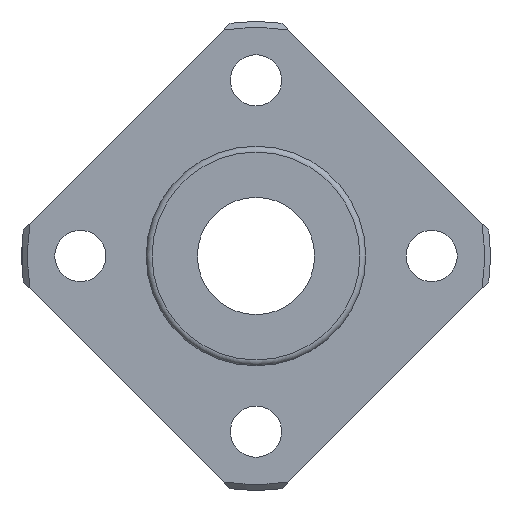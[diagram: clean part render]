
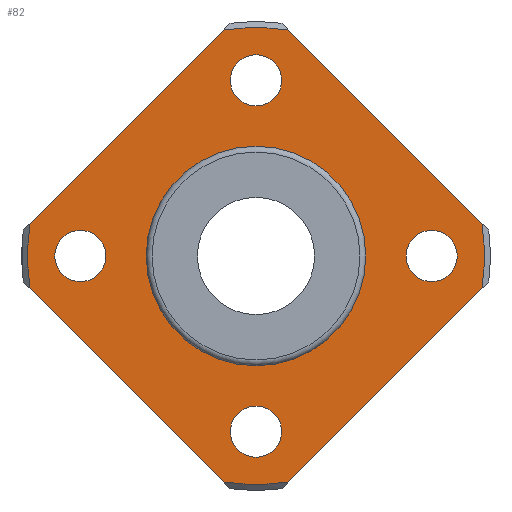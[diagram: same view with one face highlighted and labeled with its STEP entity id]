
A CAD part, left-side view. The second image highlights one B-rep face of the part: STEP entity #82.
In plain terms, the highlighted planar face has unit normal (-1, 0, 0).
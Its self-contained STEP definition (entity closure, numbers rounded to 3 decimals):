
#82=ADVANCED_FACE('',(#134,#135,#136,#137,#138,#139),#140,.T.);
#134=FACE_BOUND('',#249,.T.);
#135=FACE_BOUND('',#250,.T.);
#136=FACE_BOUND('',#251,.T.);
#137=FACE_BOUND('',#252,.T.);
#138=FACE_BOUND('',#253,.T.);
#139=FACE_OUTER_BOUND('',#254,.T.);
#140=PLANE('',#255);
#249=EDGE_LOOP('',(#402));
#250=EDGE_LOOP('',(#403));
#251=EDGE_LOOP('',(#404));
#252=EDGE_LOOP('',(#405));
#253=EDGE_LOOP('',(#406));
#254=EDGE_LOOP('',(#407,#408,#409,#410,#411,#412,#413,#414));
#255=AXIS2_PLACEMENT_3D('',#415,#416,#417);
#402=ORIENTED_EDGE('',*,*,#654,.F.);
#403=ORIENTED_EDGE('',*,*,#650,.T.);
#404=ORIENTED_EDGE('',*,*,#655,.T.);
#405=ORIENTED_EDGE('',*,*,#656,.T.);
#406=ORIENTED_EDGE('',*,*,#657,.T.);
#407=ORIENTED_EDGE('',*,*,#631,.T.);
#408=ORIENTED_EDGE('',*,*,#622,.T.);
#409=ORIENTED_EDGE('',*,*,#658,.T.);
#410=ORIENTED_EDGE('',*,*,#659,.T.);
#411=ORIENTED_EDGE('',*,*,#660,.T.);
#412=ORIENTED_EDGE('',*,*,#633,.T.);
#413=ORIENTED_EDGE('',*,*,#661,.T.);
#414=ORIENTED_EDGE('',*,*,#641,.T.);
#415=CARTESIAN_POINT('',(-5.0,0.,11.475));
#416=DIRECTION('',(-1.0,0.,0.));
#417=DIRECTION('',(0.,-1.0,0.));
#622=EDGE_CURVE('',#698,#699,#700,.T.);
#631=EDGE_CURVE('',#716,#698,#717,.T.);
#633=EDGE_CURVE('',#719,#720,#721,.T.);
#641=EDGE_CURVE('',#735,#716,#736,.T.);
#650=EDGE_CURVE('',#752,#752,#753,.T.);
#654=EDGE_CURVE('',#760,#760,#761,.T.);
#655=EDGE_CURVE('',#762,#762,#763,.T.);
#656=EDGE_CURVE('',#764,#764,#765,.T.);
#657=EDGE_CURVE('',#766,#766,#767,.T.);
#658=EDGE_CURVE('',#699,#768,#769,.T.);
#659=EDGE_CURVE('',#768,#770,#771,.T.);
#660=EDGE_CURVE('',#770,#719,#772,.T.);
#661=EDGE_CURVE('',#720,#735,#773,.T.);
#698=VERTEX_POINT('',#834);
#699=VERTEX_POINT('',#835);
#700=LINE('',#836,#837);
#716=VERTEX_POINT('',#868);
#717=CIRCLE('',#869,15.6);
#719=VERTEX_POINT('',#874);
#720=VERTEX_POINT('',#875);
#721=LINE('',#876,#877);
#735=VERTEX_POINT('',#906);
#736=LINE('',#907,#908);
#752=VERTEX_POINT('',#936);
#753=CIRCLE('',#937,1.75);
#760=VERTEX_POINT('',#944);
#761=CIRCLE('',#945,7.35);
#762=VERTEX_POINT('',#946);
#763=CIRCLE('',#947,1.75);
#764=VERTEX_POINT('',#948);
#765=CIRCLE('',#949,1.75);
#766=VERTEX_POINT('',#950);
#767=CIRCLE('',#951,1.75);
#768=VERTEX_POINT('',#952);
#769=CIRCLE('',#953,15.6);
#770=VERTEX_POINT('',#954);
#771=LINE('',#955,#956);
#772=CIRCLE('',#957,15.6);
#773=CIRCLE('',#958,15.6);
#834=CARTESIAN_POINT('',(-5.0,-15.438,2.239));
#835=CARTESIAN_POINT('',(-5.0,-2.239,15.438));
#836=CARTESIAN_POINT('',(-5.0,-3.101,14.576));
#837=VECTOR('',#1034,1.0);
#868=CARTESIAN_POINT('',(-5.0,-15.438,-2.239));
#869=AXIS2_PLACEMENT_3D('',#1041,#1042,#1043);
#874=CARTESIAN_POINT('',(-5.0,15.438,-2.239));
#875=CARTESIAN_POINT('',(-5.0,2.239,-15.438));
#876=CARTESIAN_POINT('',(-5.0,14.576,-3.101));
#877=VECTOR('',#1044,1.0);
#906=CARTESIAN_POINT('',(-5.0,-2.239,-15.438));
#907=CARTESIAN_POINT('',(-5.0,-14.576,-3.101));
#908=VECTOR('',#1048,1.0);
#936=CARTESIAN_POINT('',(-5.0,-1.75,12.0));
#937=AXIS2_PLACEMENT_3D('',#1058,#1059,#1060);
#944=CARTESIAN_POINT('',(-5.0,0.,7.35));
#945=AXIS2_PLACEMENT_3D('',#1070,#1071,#1072);
#946=CARTESIAN_POINT('',(-5.0,-1.75,-12.0));
#947=AXIS2_PLACEMENT_3D('',#1073,#1074,#1075);
#948=CARTESIAN_POINT('',(-5.0,10.25,0.));
#949=AXIS2_PLACEMENT_3D('',#1076,#1077,#1078);
#950=CARTESIAN_POINT('',(-5.0,-13.75,0.));
#951=AXIS2_PLACEMENT_3D('',#1079,#1080,#1081);
#952=CARTESIAN_POINT('',(-5.0,2.239,15.438));
#953=AXIS2_PLACEMENT_3D('',#1082,#1083,#1084);
#954=CARTESIAN_POINT('',(-5.0,15.438,2.239));
#955=CARTESIAN_POINT('',(-5.0,3.101,14.576));
#956=VECTOR('',#1085,1.0);
#957=AXIS2_PLACEMENT_3D('',#1086,#1087,#1088);
#958=AXIS2_PLACEMENT_3D('',#1089,#1090,#1091);
#1034=DIRECTION('',(0.,0.707,0.707));
#1041=CARTESIAN_POINT('',(-5.0,0.,0.));
#1042=DIRECTION('',(-1.0,0.,0.));
#1043=DIRECTION('',(0.,0.0,1.0));
#1044=DIRECTION('',(0.,-0.707,-0.707));
#1048=DIRECTION('',(0.,-0.707,0.707));
#1058=CARTESIAN_POINT('',(-5.0,0.,12.0));
#1059=DIRECTION('',(1.0,0.,0.));
#1060=DIRECTION('',(0.,1.0,0.));
#1070=CARTESIAN_POINT('',(-5.0,0.,0.));
#1071=DIRECTION('',(-1.0,0.,0.));
#1072=DIRECTION('',(0.,0.0,1.0));
#1073=CARTESIAN_POINT('',(-5.0,0.,-12.0));
#1074=DIRECTION('',(1.0,0.,0.));
#1075=DIRECTION('',(0.,1.0,0.));
#1076=CARTESIAN_POINT('',(-5.0,12.0,0.));
#1077=DIRECTION('',(1.0,0.,0.));
#1078=DIRECTION('',(0.,1.0,0.));
#1079=CARTESIAN_POINT('',(-5.0,-12.0,0.));
#1080=DIRECTION('',(1.0,0.,0.));
#1081=DIRECTION('',(0.,1.0,0.));
#1082=CARTESIAN_POINT('',(-5.0,0.,0.));
#1083=DIRECTION('',(-1.0,0.,0.));
#1084=DIRECTION('',(0.,0.0,1.0));
#1085=DIRECTION('',(0.,0.707,-0.707));
#1086=CARTESIAN_POINT('',(-5.0,0.,0.));
#1087=DIRECTION('',(-1.0,0.,0.));
#1088=DIRECTION('',(0.,0.0,1.0));
#1089=CARTESIAN_POINT('',(-5.0,0.,0.));
#1090=DIRECTION('',(-1.0,0.,0.));
#1091=DIRECTION('',(0.,0.0,1.0));
